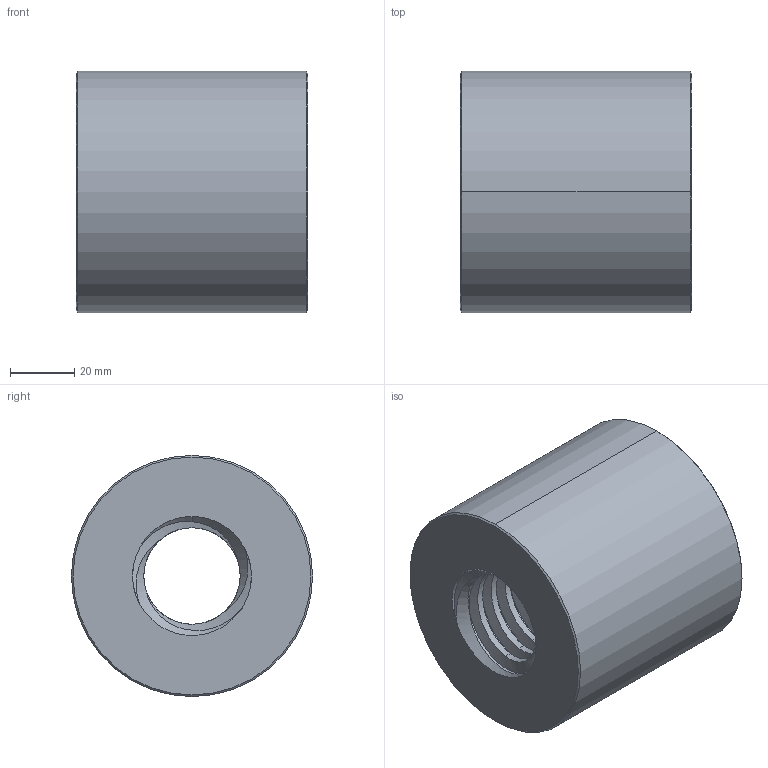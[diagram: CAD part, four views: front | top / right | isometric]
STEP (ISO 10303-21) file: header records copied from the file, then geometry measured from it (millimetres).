
FILE_DESCRIPTION((''),'2;1');
FILE_NAME('711-036-6005_PRT','2024-03-23T',('Brieden'),('ib-brieden'),'PRO/ENGINEER BY PARAMETRIC TECHNOLOGY CORPORATION, 2010160','PRO/ENGINEER BY PARAMETRIC TECHNOLOGY CORPORATION, 2010160','');
FILE_SCHEMA(('AUTOMOTIVE_DESIGN { 1 0 10303 214 1 1 1 1 }'));
Length unit declared in the file: millimetre
Products named in the file (1): 711-036-6005_PRT
Bounding box: 72 x 75 x 75 mm (x, y, z)
Volume: 254029.4 mm3; surface area: 37768.2 mm2
Topology: 1 solids, 1 shells, 48 faces, 122 edges, 76 vertices
Faces by surface type: cylinder 24, bspline 12, cone 10, plane 2
Entity records: 7425 total; most frequent: CARTESIAN_POINT 6368, ORIENTED_EDGE 244, DIRECTION 142, EDGE_CURVE 122, VERTEX_POINT 76, B_SPLINE_CURVE_WITH_KNOTS 70, AXIS2_PLACEMENT_3D 54, EDGE_LOOP 50
